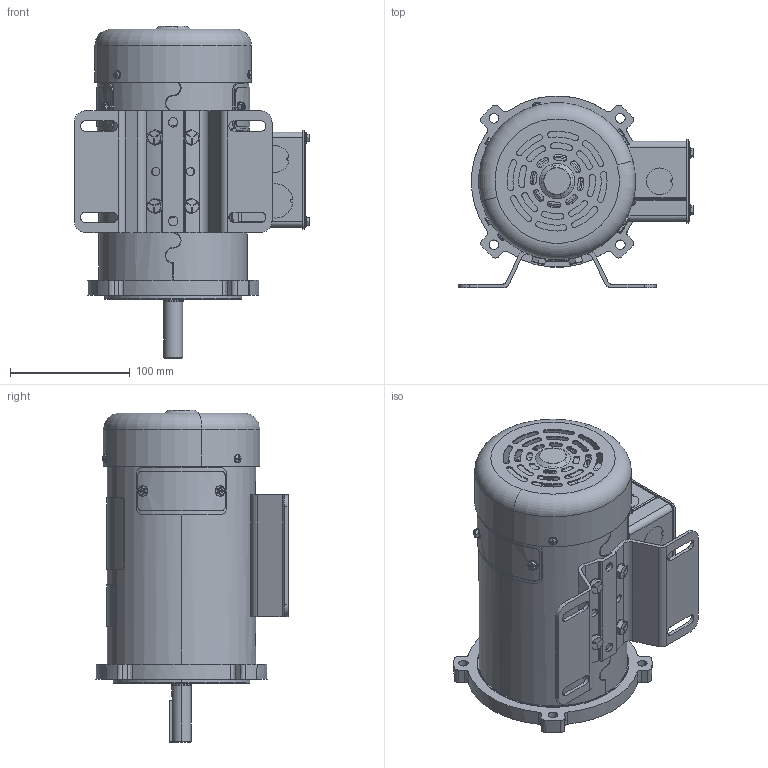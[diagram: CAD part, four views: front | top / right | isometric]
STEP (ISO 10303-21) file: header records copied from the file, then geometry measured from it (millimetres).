
FILE_DESCRIPTION (( 'STEP AP203' ), '1' );
FILE_NAME ('027620-098382_Rev08.STEP', '2018-02-20T11:07:32', ( '' ), ( '' ), 'SwSTEP 2.0', 'SolidWorks 2015', '' );
FILE_SCHEMA (( 'CONFIG_CONTROL_DESIGN' ));
Length unit declared in the file: inch
Products named in the file (1): 027620-098382_Rev08
Bounding box: 196.62 x 160.28 x 277.13 mm (x, y, z)
Volume: 811824.5 mm3; surface area: 483486.5 mm2
Topology: 58 solids, 58 shells, 3239 faces, 7830 edges, 4709 vertices
Faces by surface type: cylinder 938, plane 924, bspline 708, torus 304, cone 281, sphere 84
Entity records: 122209 total; most frequent: CARTESIAN_POINT 51295, ORIENTED_EDGE 15460, DIRECTION 13778, EDGE_CURVE 7730, AXIS2_PLACEMENT_3D 5471, VERTEX_POINT 4709, EDGE_LOOP 3545, FACE_OUTER_BOUND 3239
